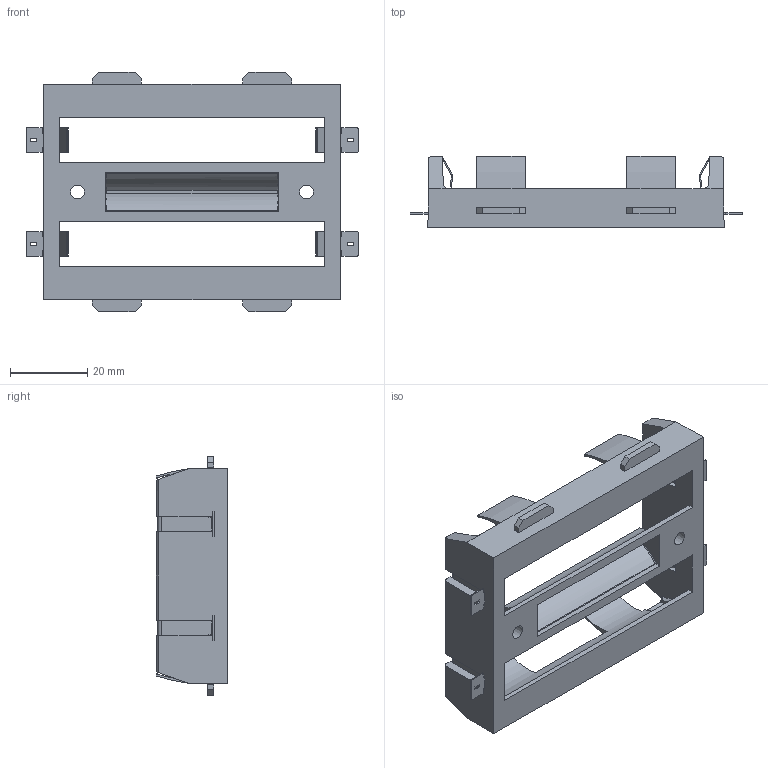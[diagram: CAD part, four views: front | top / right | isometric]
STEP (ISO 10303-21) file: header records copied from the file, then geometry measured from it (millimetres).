
FILE_DESCRIPTION (( 'STEP AP203' ), '1' );
FILE_NAME ('BH-26650-2N-SMD - Kopya.STEP', '2026-01-12T11:37:00', ( '' ), ( '' ), 'SwSTEP 2.0', 'SolidWorks 2021', '' );
FILE_SCHEMA (( 'CONFIG_CONTROL_DESIGN' ));
Length unit declared in the file: millimetre
Products named in the file (3): 1108-1109-HOUSING; BH-26650-2N-SMD - Kopya; F1016-1
Assembly tree (5 placements, depth 2):
  BH-26650-2N-SMD - Kopya
    1108-1109-HOUSING
    F1016-1  x4
Bounding box: 86.11 x 18.42 x 62 mm (x, y, z)
Volume: 16347.8 mm3; surface area: 15643.8 mm2
Topology: 5 solids, 5 shells, 493 faces, 1404 edges, 920 vertices
Faces by surface type: plane 329, cylinder 134, bspline 28, cone 2
Entity records: 11743 total; most frequent: CARTESIAN_POINT 3855, ORIENTED_EDGE 1716, DIRECTION 1307, EDGE_CURVE 858, LINE 609, VECTOR 609, VERTEX_POINT 564, AXIS2_PLACEMENT_3D 349
